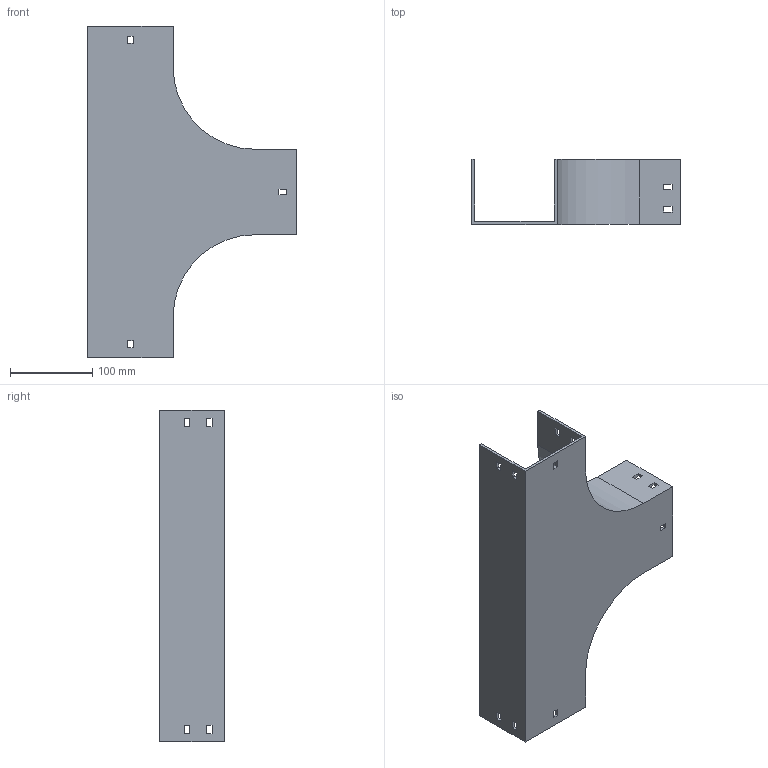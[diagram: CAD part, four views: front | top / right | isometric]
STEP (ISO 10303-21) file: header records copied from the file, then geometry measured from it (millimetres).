
FILE_DESCRIPTION (( 'STEP AP214' ), '1' );
FILE_NAME ('15B1C100.step', '2025-02-21T09:55:09', ( '' ), ( '' ), 'SwSTEP 2.0', 'SolidWorks 2023', '' );
FILE_SCHEMA (( 'AUTOMOTIVE_DESIGN' ));
Length unit declared in the file: millimetre
Products named in the file (1): 15B1C100
Bounding box: 254 x 79 x 404 mm (x, y, z)
Volume: 457200.3 mm3; surface area: 268901.8 mm2
Topology: 1 solids, 1 shells, 82 faces, 240 edges, 160 vertices
Faces by surface type: plane 78, cylinder 4
Entity records: 2755 total; most frequent: CARTESIAN_POINT 483, ORIENTED_EDGE 480, DIRECTION 414, EDGE_CURVE 240, LINE 232, VECTOR 232, VERTEX_POINT 160, EDGE_LOOP 112
